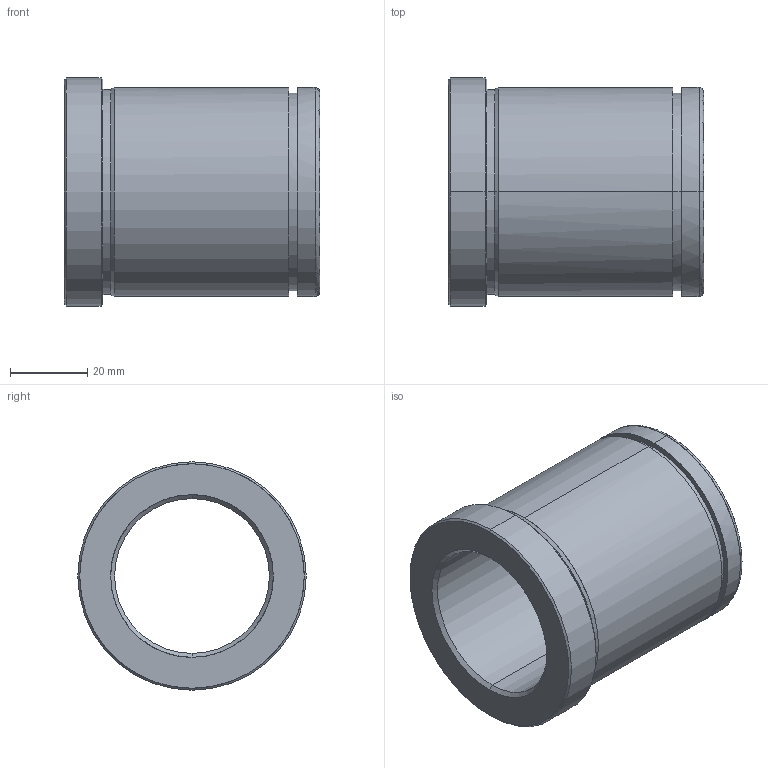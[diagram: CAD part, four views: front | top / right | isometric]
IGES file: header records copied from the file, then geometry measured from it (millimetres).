
Start section: START RECORD GO HERE.
Global section: file name: 553-40X66.igs; native system: DASSAULT SYSTEMES CATIA V5 R20 - www.3ds.com; preprocessor: CATIA Version 5 Release 20 ; author: Utente; organization: NB04-ASUS; date: 20210603.202950; units: millimetre
Bounding box: 66 x 59 x 59 mm (x, y, z)
Surface area: 22774 mm2 (no closed solid volume)
Topology: 0 solids, 0 shells, 29 faces, 184 edges, 184 vertices
Faces by surface type: revolution 24, plane 5
